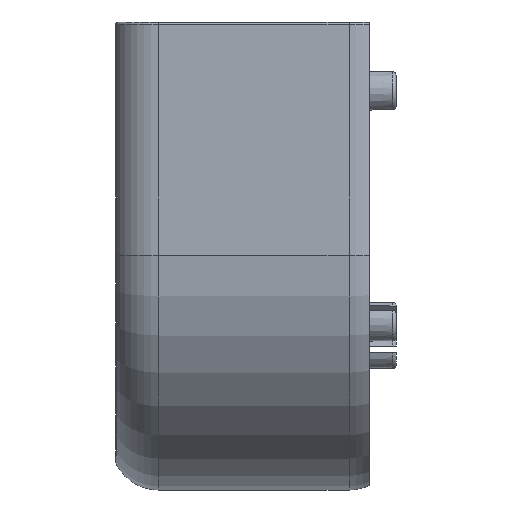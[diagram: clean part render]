
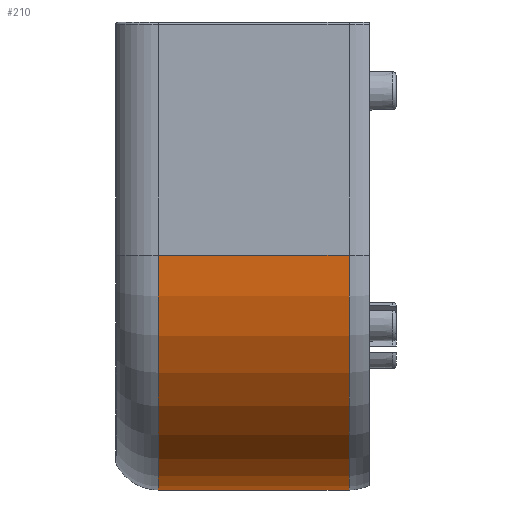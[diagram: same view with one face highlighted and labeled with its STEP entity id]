
A CAD part, left-side view. The second image highlights one B-rep face of the part: STEP entity #210.
In plain terms, the highlighted cylindrical face has radius 15 mm (diameter 30 mm), a partial arc.
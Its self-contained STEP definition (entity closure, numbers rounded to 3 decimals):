
#210 = ADVANCED_FACE ( 'NONE', ( #3349 ), #3419, .T. ) ;
#226 = CARTESIAN_POINT ( 'NONE',  ( -2.5, -2.94, -38. ) ) ;
#276 = DIRECTION ( 'NONE',  ( 0., 0., -1. ) ) ;
#401 = VERTEX_POINT ( 'NONE', #869 ) ;
#454 = EDGE_CURVE ( 'NONE', #401, #4321, #930, .T. ) ;
#493 = CARTESIAN_POINT ( 'NONE',  ( -17.5, -2.94, -23. ) ) ;
#538 = ORIENTED_EDGE ( 'NONE', *, *, #3032, .T. ) ;
#651 = ORIENTED_EDGE ( 'NONE', *, *, #3663, .T. ) ;
#817 = AXIS2_PLACEMENT_3D ( 'NONE', #2303, #2766, #3074 ) ;
#869 = CARTESIAN_POINT ( 'NONE',  ( -2.5, -1.25, -38. ) ) ;
#930 = LINE ( 'NONE', #226, #1152 ) ;
#1152 = VECTOR ( 'NONE', #2215, 1000. ) ;
#1180 = DIRECTION ( 'NONE',  ( 0., 1., 0. ) ) ;
#1415 = AXIS2_PLACEMENT_3D ( 'NONE', #3012, #1180, #3781 ) ;
#1550 = CIRCLE ( 'NONE', #817, 15. ) ;
#1629 = ORIENTED_EDGE ( 'NONE', *, *, #3374, .F. ) ;
#1658 = AXIS2_PLACEMENT_3D ( 'NONE', #1900, #2556, #276 ) ;
#1900 = CARTESIAN_POINT ( 'NONE',  ( -2.5, -1.25, -23. ) ) ;
#1953 = EDGE_LOOP ( 'NONE', ( #1629, #2456, #651, #538 ) ) ;
#2215 = DIRECTION ( 'NONE',  ( 0., 1., 0. ) ) ;
#2303 = CARTESIAN_POINT ( 'NONE',  ( -2.5, 10.94, -23. ) ) ;
#2456 = ORIENTED_EDGE ( 'NONE', *, *, #454, .F. ) ;
#2501 = CIRCLE ( 'NONE', #1658, 15. ) ;
#2556 = DIRECTION ( 'NONE',  ( 0., 1., 0. ) ) ;
#2725 = CARTESIAN_POINT ( 'NONE',  ( -17.5, -1.25, -23. ) ) ;
#2766 = DIRECTION ( 'NONE',  ( 0., 1., 0. ) ) ;
#3012 = CARTESIAN_POINT ( 'NONE',  ( -2.5, 0.7, -23. ) ) ;
#3032 = EDGE_CURVE ( 'NONE', #3129, #3554, #3052, .T. ) ;
#3052 = LINE ( 'NONE', #493, #3842 ) ;
#3074 = DIRECTION ( 'NONE',  ( 0., 0., -1. ) ) ;
#3129 = VERTEX_POINT ( 'NONE', #2725 ) ;
#3349 = FACE_OUTER_BOUND ( 'NONE', #1953, .T. ) ;
#3374 = EDGE_CURVE ( 'NONE', #4321, #3554, #1550, .T. ) ;
#3419 = CYLINDRICAL_SURFACE ( 'NONE', #1415, 15. ) ;
#3467 = CARTESIAN_POINT ( 'NONE',  ( -17.5, 10.94, -23. ) ) ;
#3554 = VERTEX_POINT ( 'NONE', #3467 ) ;
#3663 = EDGE_CURVE ( 'NONE', #401, #3129, #2501, .T. ) ;
#3708 = DIRECTION ( 'NONE',  ( 0., 1., 0. ) ) ;
#3781 = DIRECTION ( 'NONE',  ( 0., 0., 1. ) ) ;
#3842 = VECTOR ( 'NONE', #3708, 1000. ) ;
#3871 = CARTESIAN_POINT ( 'NONE',  ( -2.5, 10.94, -38. ) ) ;
#4321 = VERTEX_POINT ( 'NONE', #3871 ) ;
